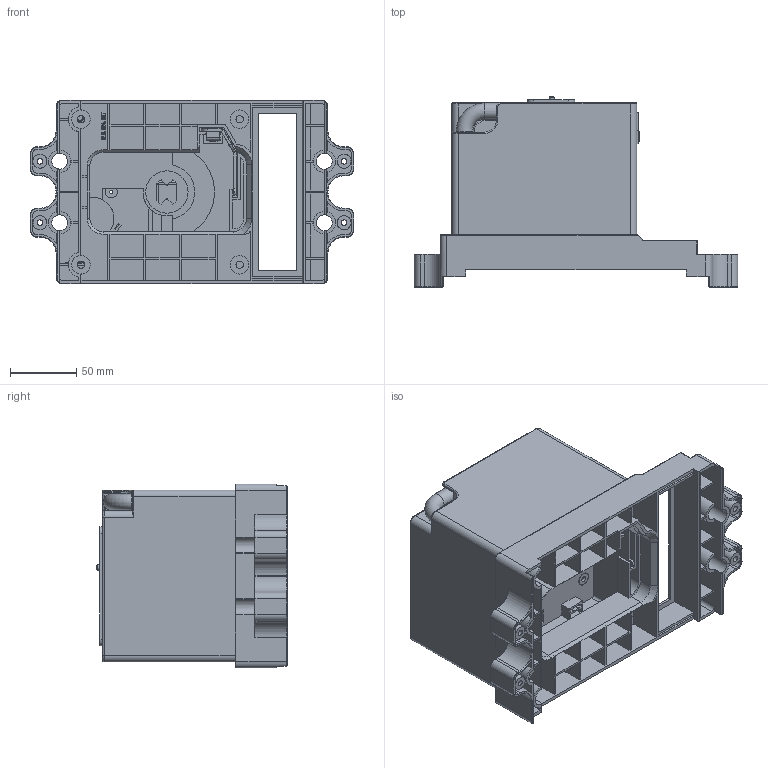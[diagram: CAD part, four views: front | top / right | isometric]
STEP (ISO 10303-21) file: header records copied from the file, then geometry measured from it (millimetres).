
FILE_DESCRIPTION(/* description */ (''),/* implementation_level */ '2;1');
FILE_NAME(/* name */ 'MOT63GP_3D DATA.stp',/* time_stamp */ '2017-12-26T17:30:56+09:00',/* author */ (''),/* organization */ (''),/* preprocessor_version */ 'ST-DEVELOPER v15',/* originating_system */ 'SIEMENS PLM Software NX 9.0',/* authorisation */ '');
FILE_SCHEMA (('AP203_CONFIGURATION_CONTROLLED_3D_DESIGN_OF_MECHANICAL_PARTS_AND_ASSEMBLIES_MIM_LF { 1 0 10303 403 2 1 2}'));
Products named in the file (9): 400GM__WL8.024.239.2_id127_x_t; CD4B-63GP_id122_x_t; WL8.261.44B-POM_id117_x_t; ____ _______id112_x_t; MOT-63GP-_______WL8.235.448__id107_x_t; 6__________5.08_id102_x_t; 310____.WL8.024.238.2_id97_x_t; 630GP____WL8.024.667_id16_x_t; CD4B-63GP_x_t
Assembly tree (8 placements, depth 2):
  CD4B-63GP_x_t
    630GP____WL8.024.667_id16_x_t
    310____.WL8.024.238.2_id97_x_t
    6__________5.08_id102_x_t
    MOT-63GP-_______WL8.235.448__id107_x_t
    ____ _______id112_x_t
    WL8.261.44B-POM_id117_x_t
    CD4B-63GP_id122_x_t
    400GM__WL8.024.239.2_id127_x_t
Bounding box: 244.6 x 144.18 x 139 mm (x, y, z)
Volume: 474351.4 mm3; surface area: 397707.3 mm2
Topology: 8 solids, 8 shells, 1910 faces, 5266 edges, 3416 vertices
Faces by surface type: plane 1313, cylinder 359, extrusion 137, torus 52, cone 24, bspline 16, sphere 9
Full cylindrical faces by diameter (mm): 1.9 x2, 2.2 x2, 2.4 x2, 3.3 x1, 3.5 x1, 4 x1, 4.2 x4, 4.3 x4, 5 x1, 5.5 x4, 5.502 x1, 7 x3, 8 x2, 8.5 x4, 9 x3, 10 x5, 10.5 x4, 12 x6, 14 x2, 32 x1, 36 x1
Entity records: 67357 total; most frequent: CARTESIAN_POINT 18130, ORIENTED_EDGE 10312, DIRECTION 9340, EDGE_CURVE 5156, VECTOR 4082, LINE 3945, VERTEX_POINT 3382, AXIS2_PLACEMENT_3D 2629
